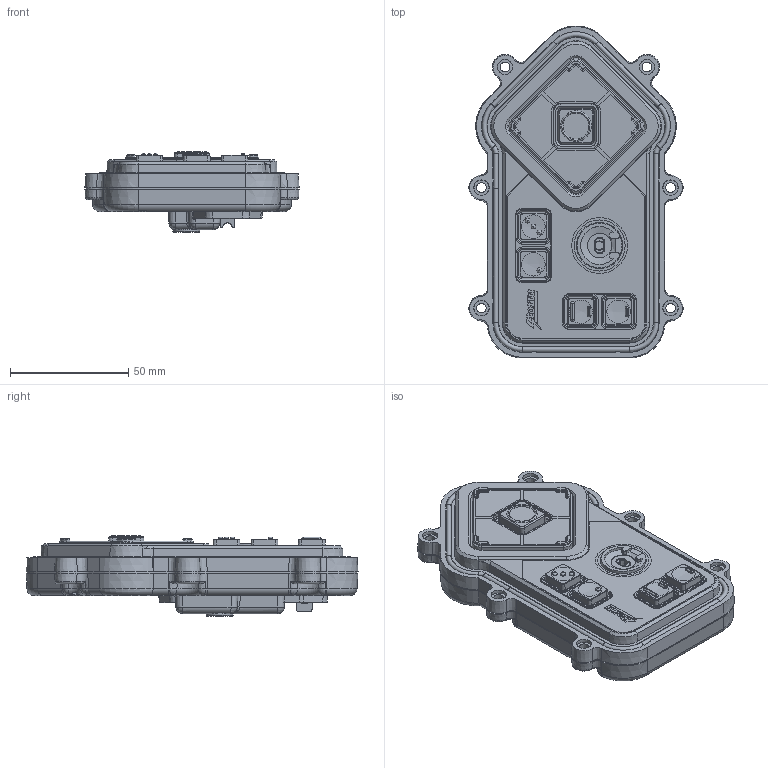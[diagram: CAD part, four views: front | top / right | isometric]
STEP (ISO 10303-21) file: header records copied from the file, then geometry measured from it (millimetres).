
FILE_DESCRIPTION (( 'STEP AP214' ), '1' );
FILE_NAME ('1409-34003~1 Horizontal.STEP', '2019-08-08T10:30:16', ( '' ), ( '' ), 'SwSTEP 2.0', 'SolidWorks 2018', '' );
FILE_SCHEMA (( 'AUTOMOTIVE_DESIGN' ));
Length unit declared in the file: millimetre
Products named in the file (1): 1409-34003~1 Horizontal
Bounding box: 90.63 x 140.46 x 33.94 mm (x, y, z)
Volume: 167945 mm3; surface area: 70266 mm2
Topology: 2 solids, 40 shells, 3114 faces, 8250 edges, 5243 vertices
Faces by surface type: plane 1586, cone 505, cylinder 482, torus 243, bspline 236, sphere 62
Full cylindrical faces by diameter (mm): 2 x8, 2.4 x2, 2.6 x1, 5.3 x7, 10.35 x1, 11 x1, 19.6 x1, 21.6 x1, 23.6 x2
Entity records: 142030 total; most frequent: CARTESIAN_POINT 34496, ORIENTED_EDGE 16038, DIRECTION 14677, EDGE_CURVE 8019, VERTEX_POINT 5192, AXIS2_PLACEMENT_3D 5077, LINE 4523, VECTOR 4523
